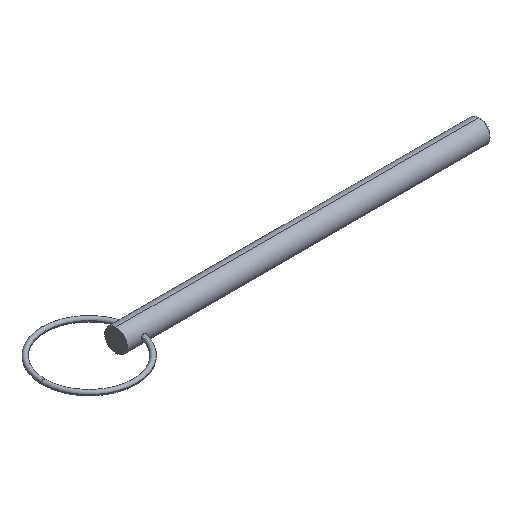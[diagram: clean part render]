
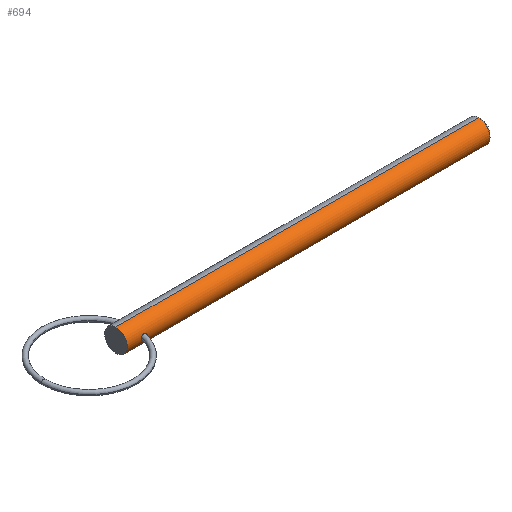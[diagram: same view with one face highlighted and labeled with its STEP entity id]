
A CAD part, isometric view. The second image highlights one B-rep face of the part: STEP entity #694.
In plain terms, the highlighted cylindrical face has radius 3.175 mm (diameter 6.35 mm), a partial arc.
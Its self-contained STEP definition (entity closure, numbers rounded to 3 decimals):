
#1 = EDGE_CURVE ( 'NONE', #183, #247, #531, .T. ) ;
#10 = CARTESIAN_POINT ( 'NONE',  ( 4.063, -3.151, 0.403 ) ) ;
#16 = VECTOR ( 'NONE', #693, 1000. ) ;
#17 = LINE ( 'NONE', #420, #256 ) ;
#21 = VERTEX_POINT ( 'NONE', #524 ) ;
#48 = AXIS2_PLACEMENT_3D ( 'NONE', #775, #541, #219 ) ;
#56 = CARTESIAN_POINT ( 'NONE',  ( 5.489, -3.15, 0.407 ) ) ;
#102 = CARTESIAN_POINT ( 'NONE',  ( 5.59, -3.175, -0.212 ) ) ;
#114 = DIRECTION ( 'NONE',  ( 1., 0., 0. ) ) ;
#126 = CYLINDRICAL_SURFACE ( 'NONE', #360, 3.175 ) ;
#127 = CARTESIAN_POINT ( 'NONE',  ( 5.279, -3.11, 0.644 ) ) ;
#148 = B_SPLINE_CURVE_WITH_KNOTS ( 'NONE', 3,
 ( #723, #102, #425, #297, #340, #414, #557, #607, #787, #493, #168, #488, #408, #285 ),
 .UNSPECIFIED., .F., .F.,
 ( 4, 2, 2, 2, 2, 2, 4 ),
 ( 0.003, 0.003, 0.004, 0.004, 0.005, 0.005, 0.005 ),
 .UNSPECIFIED. ) ;
#150 = CARTESIAN_POINT ( 'NONE',  ( 101.616, 0., 3.175 ) ) ;
#160 = B_SPLINE_CURVE_WITH_KNOTS ( 'NONE', 3,
 ( #377, #316, #573, #10, #454, #653, #335, #709, #401, #705, #127, #327, #56, #381, #204, #577 ),
 .UNSPECIFIED., .F., .F.,
 ( 4, 2, 2, 2, 2, 2, 2, 4 ),
 ( 0., 0.001, 0.001, 0.002, 0.002, 0.002, 0.003, 0.003 ),
 .UNSPECIFIED. ) ;
#168 = CARTESIAN_POINT ( 'NONE',  ( 4.064, -3.151, -0.404 ) ) ;
#175 = ORIENTED_EDGE ( 'NONE', *, *, #628, .T. ) ;
#183 = VERTEX_POINT ( 'NONE', #150 ) ;
#190 = FACE_BOUND ( 'NONE', #618, .T. ) ;
#204 = CARTESIAN_POINT ( 'NONE',  ( 5.59, -3.175, 0.106 ) ) ;
#216 = CARTESIAN_POINT ( 'NONE',  ( 101.616, 0., 0. ) ) ;
#219 = DIRECTION ( 'NONE',  ( 0., 0., -1. ) ) ;
#220 = ORIENTED_EDGE ( 'NONE', *, *, #334, .T. ) ;
#243 = CARTESIAN_POINT ( 'NONE',  ( 0., 0., -3.175 ) ) ;
#247 = VERTEX_POINT ( 'NONE', #625 ) ;
#253 = CARTESIAN_POINT ( 'NONE',  ( 0., 0., -3.175 ) ) ;
#256 = VECTOR ( 'NONE', #280, 1000. ) ;
#269 = DIRECTION ( 'NONE',  ( 1., 0., 0. ) ) ;
#280 = DIRECTION ( 'NONE',  ( 1., 0., 0. ) ) ;
#285 = CARTESIAN_POINT ( 'NONE',  ( 3.95, -3.175, 0. ) ) ;
#297 = CARTESIAN_POINT ( 'NONE',  ( 5.279, -3.11, -0.644 ) ) ;
#315 = ORIENTED_EDGE ( 'NONE', *, *, #407, .T. ) ;
#316 = CARTESIAN_POINT ( 'NONE',  ( 3.95, -3.175, 0.106 ) ) ;
#327 = CARTESIAN_POINT ( 'NONE',  ( 5.429, -3.137, 0.497 ) ) ;
#334 = EDGE_CURVE ( 'NONE', #803, #247, #740, .T. ) ;
#335 = CARTESIAN_POINT ( 'NONE',  ( 4.567, -3.075, 0.789 ) ) ;
#337 = DIRECTION ( 'NONE',  ( 0., 0., -1. ) ) ;
#340 = CARTESIAN_POINT ( 'NONE',  ( 5.188, -3.097, -0.702 ) ) ;
#360 = AXIS2_PLACEMENT_3D ( 'NONE', #380, #114, #756 ) ;
#369 = CARTESIAN_POINT ( 'NONE',  ( 0., 0., 3.175 ) ) ;
#377 = CARTESIAN_POINT ( 'NONE',  ( 3.95, -3.175, 0. ) ) ;
#380 = CARTESIAN_POINT ( 'NONE',  ( 0., 0., 0. ) ) ;
#381 = CARTESIAN_POINT ( 'NONE',  ( 5.569, -3.169, 0.212 ) ) ;
#401 = CARTESIAN_POINT ( 'NONE',  ( 4.992, -3.078, 0.778 ) ) ;
#407 = EDGE_CURVE ( 'NONE', #629, #21, #160, .T. ) ;
#408 = CARTESIAN_POINT ( 'NONE',  ( 3.95, -3.175, -0.106 ) ) ;
#414 = CARTESIAN_POINT ( 'NONE',  ( 4.992, -3.078, -0.778 ) ) ;
#420 = CARTESIAN_POINT ( 'NONE',  ( 0., 0., 3.175 ) ) ;
#425 = CARTESIAN_POINT ( 'NONE',  ( 5.504, -3.15, -0.423 ) ) ;
#428 = ORIENTED_EDGE ( 'NONE', *, *, #675, .F. ) ;
#454 = CARTESIAN_POINT ( 'NONE',  ( 4.127, -3.138, 0.49 ) ) ;
#476 = ORIENTED_EDGE ( 'NONE', *, *, #518, .T. ) ;
#488 = CARTESIAN_POINT ( 'NONE',  ( 3.974, -3.169, -0.212 ) ) ;
#493 = CARTESIAN_POINT ( 'NONE',  ( 4.127, -3.138, -0.49 ) ) ;
#518 = EDGE_CURVE ( 'NONE', #739, #803, #670, .T. ) ;
#524 = CARTESIAN_POINT ( 'NONE',  ( 5.59, -3.175, 0. ) ) ;
#531 = CIRCLE ( 'NONE', #701, 3.175 ) ;
#541 = DIRECTION ( 'NONE',  ( 1., 0., 0. ) ) ;
#546 = CARTESIAN_POINT ( 'NONE',  ( 3.95, -3.175, 0. ) ) ;
#557 = CARTESIAN_POINT ( 'NONE',  ( 4.885, -3.074, -0.796 ) ) ;
#573 = CARTESIAN_POINT ( 'NONE',  ( 3.974, -3.169, 0.212 ) ) ;
#577 = CARTESIAN_POINT ( 'NONE',  ( 5.59, -3.175, 0. ) ) ;
#607 = CARTESIAN_POINT ( 'NONE',  ( 4.568, -3.075, -0.789 ) ) ;
#618 = EDGE_LOOP ( 'NONE', ( #315, #175 ) ) ;
#625 = CARTESIAN_POINT ( 'NONE',  ( 101.616, 0., -3.175 ) ) ;
#628 = EDGE_CURVE ( 'NONE', #21, #629, #148, .T. ) ;
#629 = VERTEX_POINT ( 'NONE', #546 ) ;
#653 = CARTESIAN_POINT ( 'NONE',  ( 4.36, -3.099, 0.705 ) ) ;
#670 = CIRCLE ( 'NONE', #48, 3.175 ) ;
#675 = EDGE_CURVE ( 'NONE', #739, #183, #17, .T. ) ;
#693 = DIRECTION ( 'NONE',  ( 1., 0., 0. ) ) ;
#694 = ADVANCED_FACE ( 'NONE', ( #703, #190 ), #126, .T. ) ;
#701 = AXIS2_PLACEMENT_3D ( 'NONE', #216, #269, #337 ) ;
#703 = FACE_OUTER_BOUND ( 'NONE', #752, .T. ) ;
#705 = CARTESIAN_POINT ( 'NONE',  ( 5.189, -3.097, 0.702 ) ) ;
#709 = CARTESIAN_POINT ( 'NONE',  ( 4.886, -3.074, 0.796 ) ) ;
#723 = CARTESIAN_POINT ( 'NONE',  ( 5.59, -3.175, 0. ) ) ;
#739 = VERTEX_POINT ( 'NONE', #369 ) ;
#740 = LINE ( 'NONE', #243, #16 ) ;
#752 = EDGE_LOOP ( 'NONE', ( #428, #476, #220, #812 ) ) ;
#756 = DIRECTION ( 'NONE',  ( 0., 0., -1. ) ) ;
#775 = CARTESIAN_POINT ( 'NONE',  ( 0., 0., 0. ) ) ;
#787 = CARTESIAN_POINT ( 'NONE',  ( 4.359, -3.099, -0.704 ) ) ;
#803 = VERTEX_POINT ( 'NONE', #253 ) ;
#812 = ORIENTED_EDGE ( 'NONE', *, *, #1, .F. ) ;
